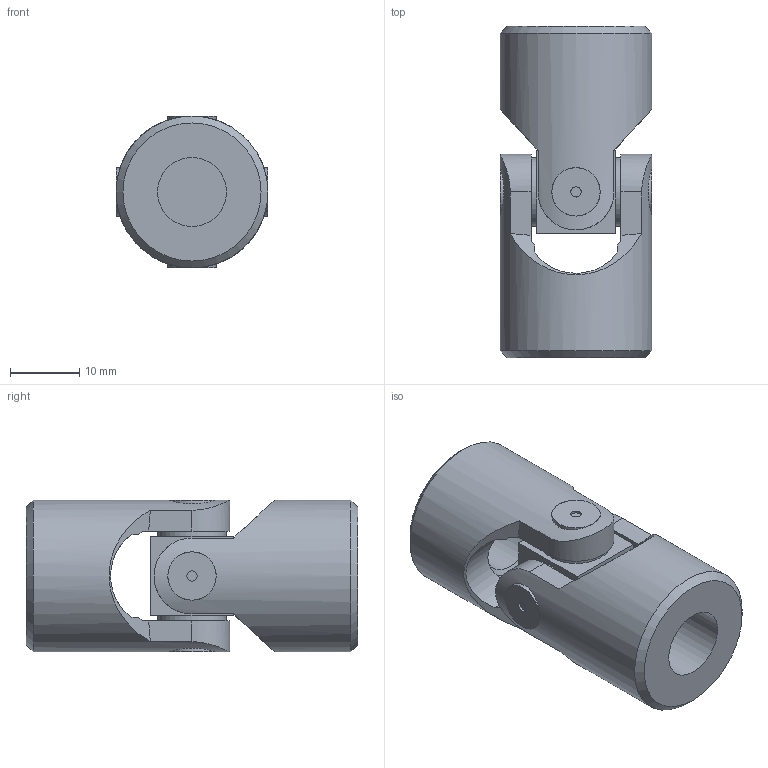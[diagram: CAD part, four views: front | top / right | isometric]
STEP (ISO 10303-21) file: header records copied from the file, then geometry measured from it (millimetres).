
FILE_DESCRIPTION(/* description */ (''),/* implementation_level */ '2;1');
FILE_NAME(/* name */ '\\SRV2016\societa\Stefano\Disegni 3D\Dis. Clienti\0000Catalogo 3D\01Singoli G-GB\SG0S1000.stp',/* time_stamp */ '2021-11-08T14:17:58+01:00',/* author */ ('acquisti'),/* organization */ (''),/* preprocessor_version */ 'ST-DEVELOPER v15.6',/* originating_system */ 'Autodesk Inventor 2015',/* authorisation */ '');
FILE_SCHEMA (('AUTOMOTIVE_DESIGN { 1 0 10303 214 3 1 1 }'));
Length unit declared in the file: millimetre
Products named in the file (3): 03G MOS; 03G SFE; Assieme1
Assembly tree (3 placements, depth 2):
  Assieme1
    03G MOS  x2
    03G SFE
Bounding box: 22 x 48 x 22 mm (x, y, z)
Volume: 12512.1 mm3; surface area: 6407.8 mm2
Topology: 3 solids, 3 shells, 76 faces, 172 edges, 112 vertices
Faces by surface type: plane 36, cylinder 26, cone 12, torus 2
Full cylindrical faces by diameter (mm): 1.5 x4, 10 x6, 11.5 x2, 22 x2
Entity records: 1419 total; most frequent: CARTESIAN_POINT 446, DIRECTION 192, ORIENTED_EDGE 168, EDGE_CURVE 84, AXIS2_PLACEMENT_3D 84, EDGE_LOOP 66, VERTEX_POINT 62, FACE_OUTER_BOUND 45
